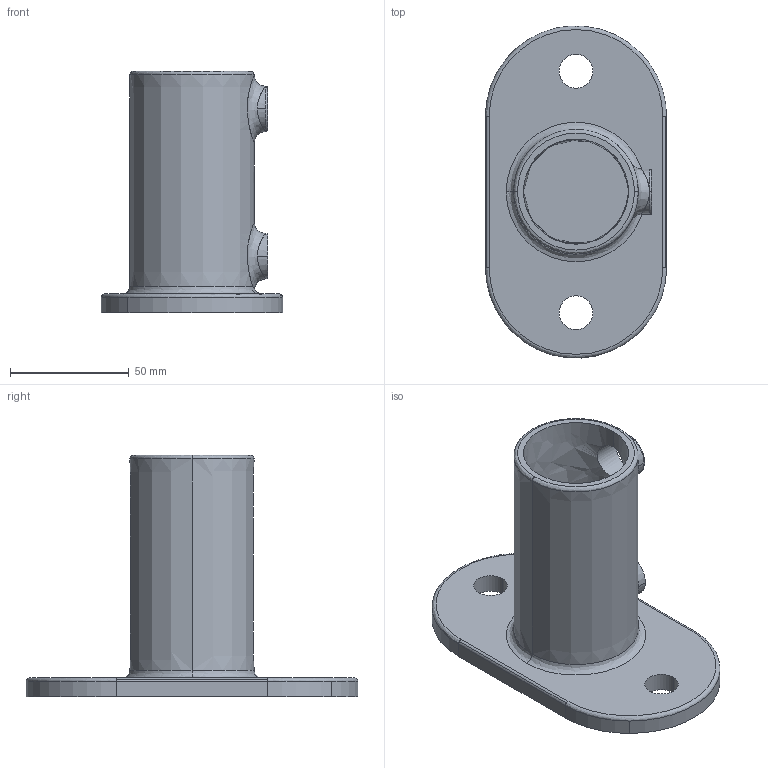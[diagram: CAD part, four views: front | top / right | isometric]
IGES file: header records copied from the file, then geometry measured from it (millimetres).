
Global section: file name: C:\Documents and Settings\Administrator\Desktop\Transfer Temp\kk62-7.igs; native system: AutoDesk Inventor R2.0 ; preprocessor: AutoDesk Inventor Iges Exporter R2.0; author: No Author specified; organization: No Organization specified; date: 20020101.142616; units: inch
Bounding box: 76.2 x 139.58 x 101.6 mm (x, y, z)
Surface area: 50647.5 mm2 (no closed solid volume)
Topology: 0 solids, 0 shells, 44 faces, 228 edges, 228 vertices
Faces by surface type: revolution 22, bspline 22
